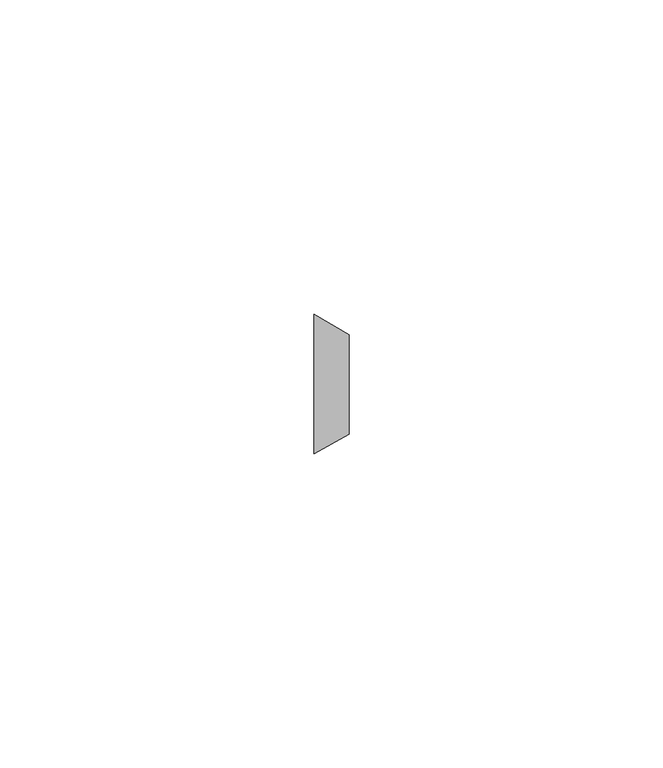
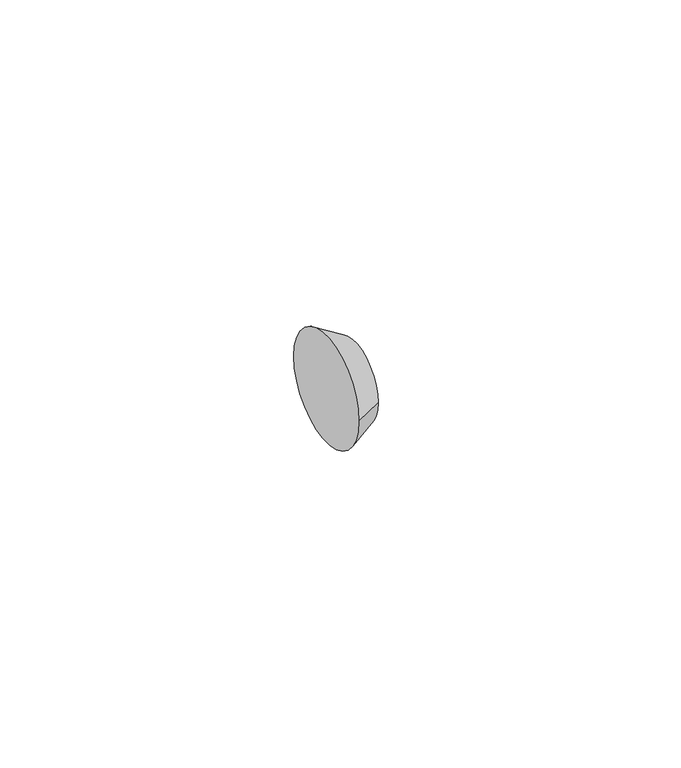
"""IFC4 building model written with IfcOpenShell, lengths in millimetres: pipe fitting geometry, M_Transición - Genérica : Estándar."""

from ifc_helpers import new_model, si_unit, frame, origin, place, context, project, spatial, circle_curve, source, transform, mapped, element, save
from ifc_brep_helpers import plane_surface, spline_surface, advanced_brep


def pipe_fitting_de849fe6(model_context):
    return source(origin(), model_context, "Body", "AdvancedBrep", [
        advanced_brep(
        [(5.55625, 7.8585816, 0.0), (5.55625, -8.0164184, 0.0), (0.0, 11.1125, 0.0), (0.0, -11.1125, 0.0)],
        [
            (0, 1, circle_curve(frame((5.55625, -0.0789184, 0.0), z_axis=(1.0, 0.0, 0.0), x_axis=(0.0, -1.0, 0.0)), 7.9375)),
            (1, 0, circle_curve(frame((5.55625, -0.0789184, 0.0), z_axis=(1.0, 0.0, 0.0), x_axis=(0.0, -1.0, 0.0)), 7.9375)),
            (2, 3, circle_curve(frame((0.0, 0.0, 0.0), z_axis=(-1.0, 0.0, 0.0), x_axis=(0.0, -1.0, 0.0)), 11.1125)),
            (3, 2, circle_curve(frame((0.0, 0.0, 0.0), z_axis=(-1.0, 0.0, 0.0), x_axis=(0.0, -1.0, 0.0)), 11.1125)),
            (2, 0),
            (1, 3),
        ],
        [
            plane_surface(frame((5.55625, -0.0789184, 0.0), z_axis=(1.0, 0.0, 0.0), x_axis=(0.0, 0.0, -1.0))),
            plane_surface(frame((0.0, 0.0, 0.0), z_axis=(-1.0, 0.0, 0.0), x_axis=(0.0, 0.0, -1.0))),
            spline_surface(1, 2, [[(0.0, 11.1125, 0.0), (0.0, 11.1125, -11.1125), (0.0, 0.0, -11.1125), (0.0, -11.1125, -11.1125), (0.0, -11.1125, 0.0)], [(5.55625, 7.8585816, 0.0), (5.55625, 7.8585816, -7.9375), (5.55625, -0.0789184, -7.9375), (5.55625, -8.0164184, -7.9375), (5.55625, -8.0164184, 0.0)]], [2, 2], [3, 2, 3], [0.0, 1.0], [0.0, 1.0, 2.0], weights=[[1.0, 0.7071067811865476, 1.0, 0.7071067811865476, 1.0], [1.0, 0.7071067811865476, 1.0, 0.7071067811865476, 1.0]]),
            spline_surface(1, 2, [[(0.0, -11.1125, 0.0), (0.0, -11.1125, 11.1125), (0.0, 0.0, 11.1125), (0.0, 11.1125, 11.1125), (0.0, 11.1125, 0.0)], [(5.55625, -8.0164184, 0.0), (5.55625, -8.0164184, 7.937499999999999), (5.55625, -0.0789184, 7.937499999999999), (5.55625, 7.858581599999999, 7.937499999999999), (5.55625, 7.8585816, 0.0)]], [2, 2], [3, 2, 3], [0.0, 1.0], [0.0, 1.0, 2.0], weights=[[1.0, 0.7071067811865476, 1.0, 0.7071067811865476, 1.0], [1.0, 0.7071067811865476, 1.0, 0.7071067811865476, 1.0]]),
        ],
        [
            (0, [[1, 2]]),
            (1, [[3, 4]]),
            (2, [[5, -2, 6, -3]]),
            (3, [[-6, -1, -5, -4]]),
        ],
    ),
    ])


if __name__ == "__main__":
    model = new_model("IFC4")
    model_context = context("Model", 3, world=origin())
    ifc_project = project(units=[si_unit("LENGTHUNIT", "METRE", prefix="MILLI")], contexts=[model_context])
    site = spatial("IfcSite", under=ifc_project)
    building = spatial("IfcBuilding", under=site)
    placement = place(None, origin())
    pipe_fitting_shape = pipe_fitting_de849fe6(model_context)
    element("IfcPipeFitting", 1, ObjectType="M_Transición - Genérica : Estándar", at=placement, inside=building, context=model_context, shape_type="MappedRepresentation", body=[
        mapped(pipe_fitting_shape, transform((0.0, 0.0, 0.0), x_axis=(1.0, 0.0, 0.0), y_axis=(0.0, 1.0, 0.0), z_axis=(0.0, 0.0, 1.0))),
    ])
    save(model, "model.ifc")
